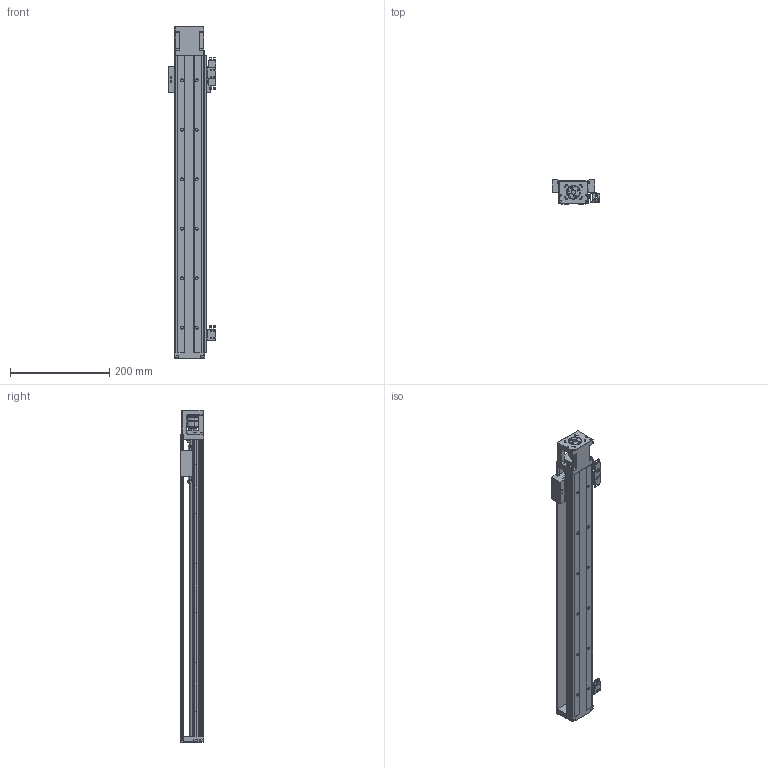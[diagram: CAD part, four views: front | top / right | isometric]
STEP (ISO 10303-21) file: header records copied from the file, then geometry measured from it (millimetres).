
FILE_DESCRIPTION (( 'STEP AP214' ), '1' );
FILE_NAME ('SFKK60-600A1-F0C.STEP', '2023-02-17T01:42:01', ( '微软用户' ), ( '微软中国' ), 'SwSTEP 2.0', 'SolidWorks 2018', '' );
FILE_SCHEMA (( 'AUTOMOTIVE_DESIGN' ));
Length unit declared in the file: millimetre
Products named in the file (12): SFKK-60-CU_600; SX674嫖萇羲壽; SFD26x33-8-8_8; SFKK60-600A1-F0C; 极限轨道与开关固定座组合_600; SFKK60-LR 憤癹寢耋_600; hexagon socket countersunk head screws gb_GB_FASTENER_SCREWS_HSCHS M3X8-N; SFKK60-A1-C; 蚐郲; 带盖挡光片：KK-60-S2-D1; SFKK60-F0_600; 开关固定座：KK-674S2-F
Assembly tree (17 placements, depth 3):
  SFKK60-600A1-F0C
    SFKK60-F0_600
    SFKK60-A1-C
    蚐郲
    极限轨道与开关固定座组合_600
      SFKK60-LR 憤癹寢耋_600
      开关固定座：KK-674S2-F  x2
    SX674嫖萇羲壽  x3
    带盖挡光片：KK-60-S2-D1
    SFKK-60-CU_600
    hexagon socket countersunk head screws gb_GB_FASTENER_SCREWS_HSCHS M3X8-N  x4
    SFD26x33-8-8_8
Bounding box: 96.4 x 48 x 670.6 mm (x, y, z)
Volume: 786468.2 mm3; surface area: 345623.3 mm2
Topology: 41 solids, 41 shells, 2216 faces, 5787 edges, 3664 vertices
Faces by surface type: plane 1041, cylinder 874, cone 200, torus 87, sphere 10, bspline 4
Entity records: 79623 total; most frequent: CARTESIAN_POINT 14424, DIRECTION 10984, ORIENTED_EDGE 10434, EDGE_CURVE 5217, AXIS2_PLACEMENT_3D 3959, VERTEX_POINT 3367, VECTOR 3066, LINE 3066
